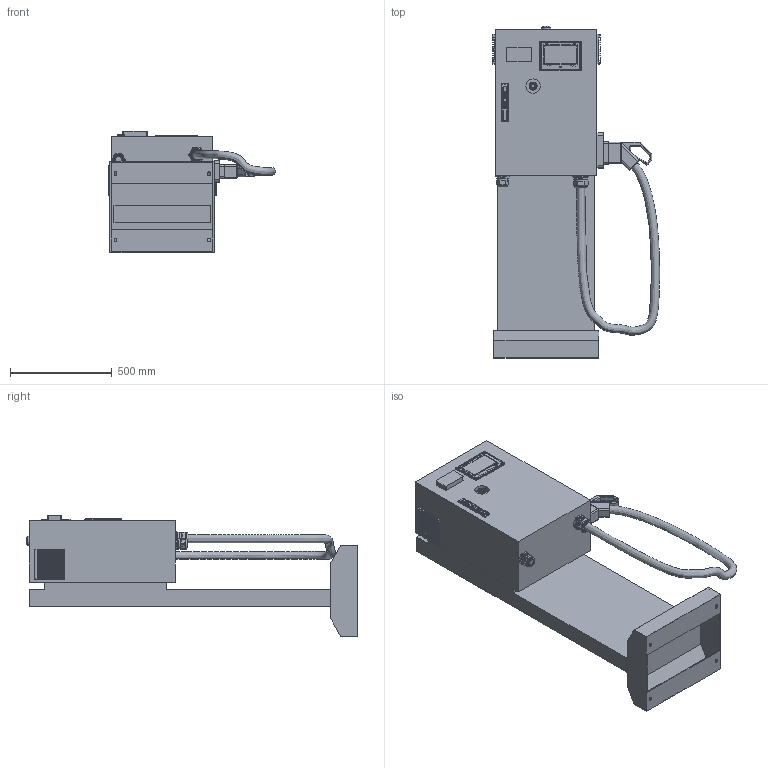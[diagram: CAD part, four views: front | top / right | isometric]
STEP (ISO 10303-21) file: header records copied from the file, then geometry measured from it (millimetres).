
FILE_DESCRIPTION(/* description */ (''),/* implementation_level */ '2;1');
FILE_NAME(/* name */ 'VEDACHARGE HK.stp',/* time_stamp */ '2024-12-27T08:40:17+04:00',/* author */ ('Александр (огранич)'),/* organization */ (''),/* preprocessor_version */ 'ST-DEVELOPER v19.2',/* originating_system */ 'Autodesk Inventor 2024',/* authorisation */ '');
FILE_SCHEMA (('AUTOMOTIVE_DESIGN { 1 0 10303 214 3 1 1 }'));
Products named in the file (16): VEDACHARGE HK; Основание; Корпус шкафа; RAMBLOCK montata modificated_Default; inserto chiave per maniglia RAM BLOCK_AC00C389; Sealing ring; Ingranaggio per cariglione modificated_AC00C388; basetta esterna_AC00C506; maniglia RAM BLOCK modificated_AC00C505; VC-H-7(E); BBG10-AE-K04 Êíîïêà AE-22 Ãðèá
îê ñ ôèêñ.êðàñí.d22ì
ì 240Â 1ç+1ð ÈÝÊ; Решетка 5 148мм; YSA20-32-36-54-K41 Ñàëüíèê PG 36 äè
àìåòð ïðîâîäíèê
à 24-32ìì IP54 ÈÝÊ; YSA20-44-48-54-K41 Ñàëüíèê PG 48 äè
àìåòð ïðîâîäíèê
à 36-44ìì IP54 ÈÝÊ; Пистолет; Провод
Assembly tree (16 placements, depth 3):
  VEDACHARGE HK
    Основание
    Корпус шкафа
    RAMBLOCK montata modificated_Default
      inserto chiave per maniglia RAM BLOCK_AC00C389
      Sealing ring
      Ingranaggio per cariglione modificated_AC00C388
      basetta esterna_AC00C506
      maniglia RAM BLOCK modificated_AC00C505
    VC-H-7(E)
    BBG10-AE-K04 Êíîïêà AE-22 Ãðèá
îê ñ ôèêñ.êðàñí.d22ì
ì 240Â 1ç+1ð ÈÝÊ
    Решетка 5 148мм  x2
    YSA20-32-36-54-K41 Ñàëüíèê PG 36 äè
àìåòð ïðîâîäíèê
à 24-32ìì IP54 ÈÝÊ
    YSA20-44-48-54-K41 Ñàëüíèê PG 48 äè
àìåòð ïðîâîäíèê
à 36-44ìì IP54 ÈÝÊ
    Пистолет
    Провод
Bounding box: 823.22 x 1634 x 596 mm (x, y, z)
Volume: 187620062.3 mm3; surface area: 5100465.7 mm2
Topology: 51 solids, 51 shells, 3673 faces, 9842 edges, 6472 vertices
Faces by surface type: plane 2621, cylinder 643, bspline 204, cone 138, torus 55, sphere 12
Full cylindrical faces by diameter (mm): 0.67 x9, 1 x3, 2 x4, 2.5 x4, 3 x2, 3.2 x1, 3.4 x3, 4.2 x4, 5 x2, 5.5 x4, 5.8 x4, 8 x4, 8.2 x3, 10 x1, 12.8 x1, 13.8 x2, 14.1 x1, 15.9 x1, 16.2 x1, 18 x1, 21 x1, 25 x1, 25.5 x1, 28.5 x1, 29 x1, 30 x1, 32.5 x1, 33 x1, 34.5 x1, 38.5 x1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
Entity records: 138090 total; most frequent: CARTESIAN_POINT 45340, ORIENTED_EDGE 19248, DIRECTION 17763, EDGE_CURVE 9624, LINE 6911, VECTOR 6911, VERTEX_POINT 6336, AXIS2_PLACEMENT_3D 5426
